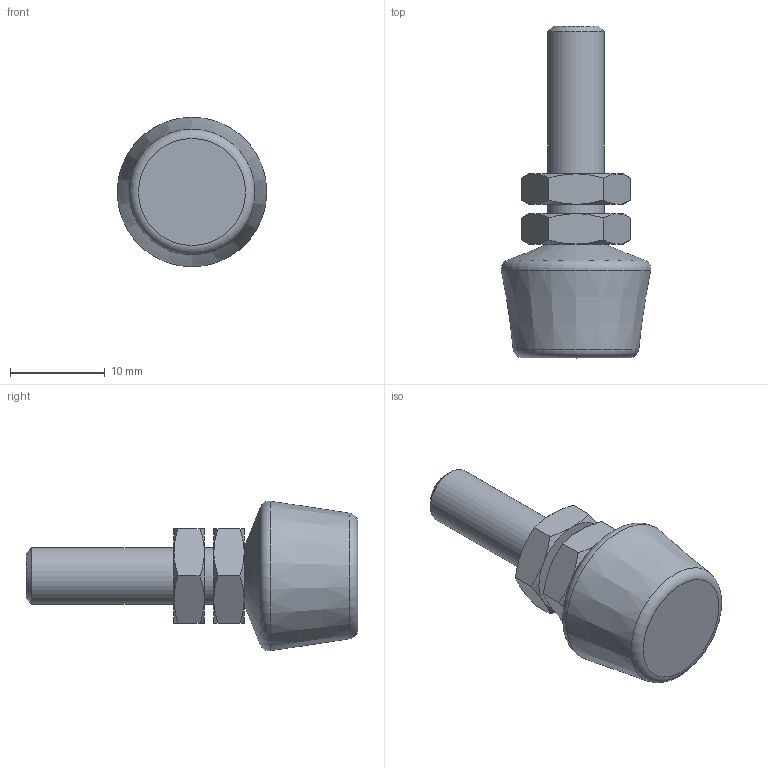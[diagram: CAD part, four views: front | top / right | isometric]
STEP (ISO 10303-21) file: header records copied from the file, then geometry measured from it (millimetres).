
FILE_DESCRIPTION( ( 'STEP AP203' ), '1' );
FILE_NAME( 'C:/Temp/Ganter_Step_05_03_2020/data/2_4/gn_708_1/gn_708_1_st/Clamping bolt GN 708.1-M6-35-A-ST (0).stp', '2020-03-13T05:51:05', ( 'License CC BY-ND 4.0' ), ( 'CADENAS' ), ' ', 'PARTsolutions', ' ' );
FILE_SCHEMA( ( 'CONFIG_CONTROL_DESIGN' ) );
Length unit declared in the file: millimetre
Products named in the file (3): Clamping bolt GN 708.1-M6-35-A-ST (0); _Andrueckschraube GN 708.1-M6-35-A-ST (0)-1; _Andrueckschraube GN 708.1-M6-35-A-ST2
Assembly tree (3 placements, depth 2):
  Clamping bolt GN 708.1-M6-35-A-ST (0)
    _Andrueckschraube GN 708.1-M6-35-A-ST (0)-1
    _Andrueckschraube GN 708.1-M6-35-A-ST2  x2
Bounding box: 15.78 x 35 x 15.78 mm (x, y, z)
Volume: 2913.9 mm3; surface area: 1765.4 mm2
Topology: 3 solids, 3 shells, 54 faces, 111 edges, 63 vertices
Faces by surface type: cone 31, plane 18, cylinder 3, torus 2
Full cylindrical faces by diameter (mm): 4.917 x2, 6 x1
Entity records: 938 total; most frequent: CARTESIAN_POINT 244, DIRECTION 122, ORIENTED_EDGE 106, AXIS2_PLACEMENT_3D 58, EDGE_CURVE 53, EDGE_LOOP 42, VERTEX_POINT 36, FACE_OUTER_BOUND 35
